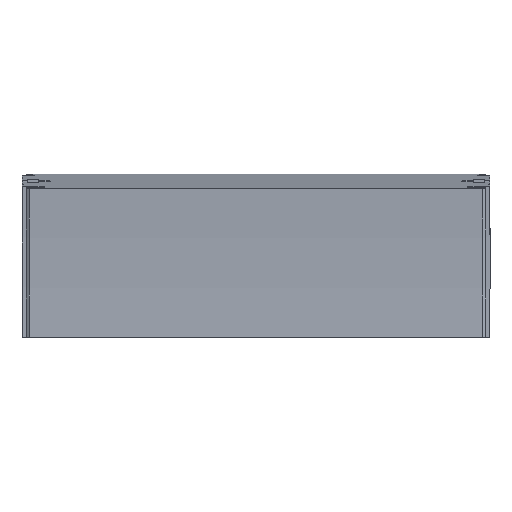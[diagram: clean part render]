
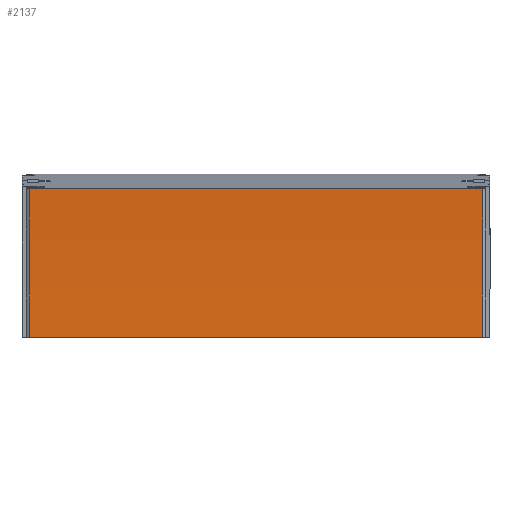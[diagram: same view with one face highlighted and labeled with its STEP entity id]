
A CAD part, top view. The second image highlights one B-rep face of the part: STEP entity #2137.
In plain terms, the highlighted cylindrical face has radius 818 mm (diameter 1636 mm), a partial arc.
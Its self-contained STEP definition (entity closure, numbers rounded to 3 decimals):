
#62=CYLINDRICAL_SURFACE('',#2337,818.);
#225=CIRCLE('',#2336,818.);
#226=CIRCLE('',#2338,818.);
#336=FACE_OUTER_BOUND('',#454,.T.);
#454=EDGE_LOOP('',(#1769,#1770,#1771,#1772));
#615=LINE('',#8201,#793);
#616=LINE('',#8203,#794);
#793=VECTOR('',#2838,10.);
#794=VECTOR('',#2839,10.);
#1005=VERTEX_POINT('',#8194);
#1006=VERTEX_POINT('',#8196);
#1007=VERTEX_POINT('',#8200);
#1008=VERTEX_POINT('',#8202);
#1304=EDGE_CURVE('',#1005,#1006,#225,.T.);
#1305=EDGE_CURVE('',#1007,#1005,#615,.T.);
#1306=EDGE_CURVE('',#1008,#1006,#616,.T.);
#1307=EDGE_CURVE('',#1007,#1008,#226,.T.);
#1769=ORIENTED_EDGE('',*,*,#1305,.T.);
#1770=ORIENTED_EDGE('',*,*,#1304,.T.);
#1771=ORIENTED_EDGE('',*,*,#1306,.F.);
#1772=ORIENTED_EDGE('',*,*,#1307,.F.);
#2137=ADVANCED_FACE('',(#336),#62,.F.);
#2336=AXIS2_PLACEMENT_3D('',#8198,#2834,#2835);
#2337=AXIS2_PLACEMENT_3D('',#8199,#2836,#2837);
#2338=AXIS2_PLACEMENT_3D('',#8204,#2840,#2841);
#2834=DIRECTION('center_axis',(1.,0.,0.));
#2835=DIRECTION('ref_axis',(0.,0.,
-1.));
#2836=DIRECTION('center_axis',(1.,0.,0.));
#2837=DIRECTION('ref_axis',(0.,0.,-1.));
#2838=DIRECTION('',(1.,0.,0.));
#2839=DIRECTION('',(1.,0.,0.));
#2840=DIRECTION('center_axis',(1.,0.,0.));
#2841=DIRECTION('ref_axis',(0.,0.,
-1.));
#8194=CARTESIAN_POINT('',(108.5,0.,42.));
#8196=CARTESIAN_POINT('',(108.5,71.293,45.113));
#8198=CARTESIAN_POINT('Origin',(108.5,0.,860.));
#8199=CARTESIAN_POINT('Origin',(-54.25,0.,860.));
#8200=CARTESIAN_POINT('',(-108.5,0.,42.));
#8201=CARTESIAN_POINT('',(-108.5,0.,42.));
#8202=CARTESIAN_POINT('',(-108.5,71.293,45.113));
#8203=CARTESIAN_POINT('',(-108.5,71.293,45.113));
#8204=CARTESIAN_POINT('Origin',(-108.5,0.,
860.));
